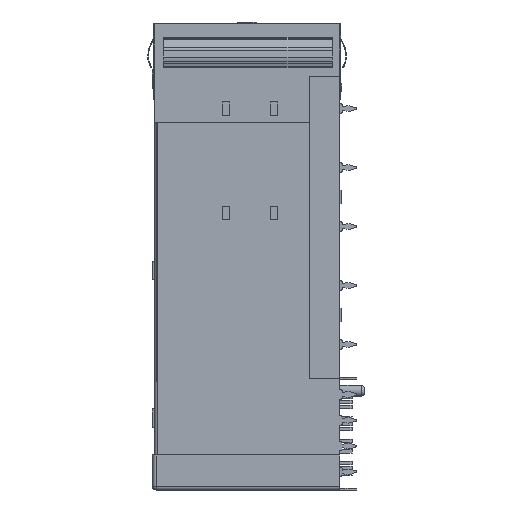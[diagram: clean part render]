
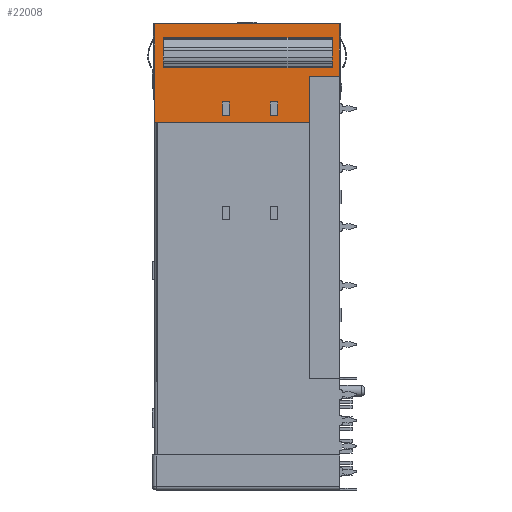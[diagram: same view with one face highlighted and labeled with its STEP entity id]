
A CAD part, left-side view. The second image highlights one B-rep face of the part: STEP entity #22008.
In plain terms, the highlighted planar face has unit normal (-1, 0, 0).
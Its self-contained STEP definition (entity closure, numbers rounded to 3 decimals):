
#380 = CARTESIAN_POINT ( 'NONE',  ( -28.75, 4.1, -7.1 ) ) ;
#1058 = DIRECTION ( 'NONE',  ( 0., 0., -1. ) ) ;
#1314 = DIRECTION ( 'NONE',  ( 0., 0., -1. ) ) ;
#2007 = LINE ( 'NONE', #12635, #96341 ) ;
#2818 = DIRECTION ( 'NONE',  ( 0., 1., 0. ) ) ;
#3015 = VERTEX_POINT ( 'NONE', #93277 ) ;
#3938 = VECTOR ( 'NONE', #96633, 1000. ) ;
#4210 = CARTESIAN_POINT ( 'NONE',  ( -28.75, 16., 0. ) ) ;
#4530 = EDGE_CURVE ( 'NONE', #10378, #90540, #42029, .T. ) ;
#5962 = EDGE_CURVE ( 'NONE', #12750, #10614, #46538, .T. ) ;
#7691 = EDGE_CURVE ( 'NONE', #71644, #41734, #14750, .T. ) ;
#8558 = LINE ( 'NONE', #24542, #85428 ) ;
#8859 = CARTESIAN_POINT ( 'NONE',  ( -28.75, 0.1, -7.1 ) ) ;
#9296 = LINE ( 'NONE', #54310, #51187 ) ;
#10378 = VERTEX_POINT ( 'NONE', #70052 ) ;
#10614 = VERTEX_POINT ( 'NONE', #20878 ) ;
#11645 = CARTESIAN_POINT ( 'NONE',  ( -28.75, 0., -12.4 ) ) ;
#12013 = LINE ( 'NONE', #4210, #69138 ) ;
#12635 = CARTESIAN_POINT ( 'NONE',  ( -28.75, 25.3, 0. ) ) ;
#12750 = VERTEX_POINT ( 'NONE', #85187 ) ;
#12794 = CARTESIAN_POINT ( 'NONE',  ( -28.75, 15., 0. ) ) ;
#13975 = ORIENTED_EDGE ( 'NONE', *, *, #52996, .T. ) ;
#14750 = LINE ( 'NONE', #90241, #69513 ) ;
#14776 = ORIENTED_EDGE ( 'NONE', *, *, #40934, .T. ) ;
#14791 = ORIENTED_EDGE ( 'NONE', *, *, #41325, .F. ) ;
#15036 = DIRECTION ( 'NONE',  ( 0., 0., 1. ) ) ;
#15763 = VECTOR ( 'NONE', #15036, 1000. ) ;
#15926 = VECTOR ( 'NONE', #46916, 1000. ) ;
#16092 = VECTOR ( 'NONE', #27789, 1000. ) ;
#16439 = CARTESIAN_POINT ( 'NONE',  ( -28.75, 0., -10.6 ) ) ;
#16486 = EDGE_CURVE ( 'NONE', #64602, #35556, #37702, .T. ) ;
#16840 = LINE ( 'NONE', #17926, #56333 ) ;
#17469 = VERTEX_POINT ( 'NONE', #31609 ) ;
#17926 = CARTESIAN_POINT ( 'NONE',  ( -28.75, 25.2, -13.4 ) ) ;
#19835 = ORIENTED_EDGE ( 'NONE', *, *, #88949, .T. ) ;
#20878 = CARTESIAN_POINT ( 'NONE',  ( -28.75, 16., -12.4 ) ) ;
#22008 = ADVANCED_FACE ( 'NONE', ( #65273, #47696, #85017, #30320 ), #74854, .F. ) ;
#22080 = CARTESIAN_POINT ( 'NONE',  ( -28.75, 1.05, -1.9 ) ) ;
#23738 = LINE ( 'NONE', #22080, #3938 ) ;
#24542 = CARTESIAN_POINT ( 'NONE',  ( -28.75, 0., -7.1 ) ) ;
#25400 = EDGE_CURVE ( 'NONE', #3015, #35665, #94828, .T. ) ;
#26647 = DIRECTION ( 'NONE',  ( 0., 0., 1. ) ) ;
#27145 = ORIENTED_EDGE ( 'NONE', *, *, #92816, .T. ) ;
#27377 = VERTEX_POINT ( 'NONE', #380 ) ;
#27668 = VECTOR ( 'NONE', #96251, 1000. ) ;
#27789 = DIRECTION ( 'NONE',  ( 0., 0., -1. ) ) ;
#29882 = EDGE_CURVE ( 'NONE', #90418, #59687, #42512, .T. ) ;
#30239 = DIRECTION ( 'NONE',  ( 0., 0., -1. ) ) ;
#30320 = FACE_OUTER_BOUND ( 'NONE', #66842, .T. ) ;
#31609 = CARTESIAN_POINT ( 'NONE',  ( -28.75, 15., -10.6 ) ) ;
#31961 = CARTESIAN_POINT ( 'NONE',  ( -28.75, 23.95, -2.181 ) ) ;
#33181 = VERTEX_POINT ( 'NONE', #54012 ) ;
#34072 = CARTESIAN_POINT ( 'NONE',  ( -28.75, 0.1, 0. ) ) ;
#35556 = VERTEX_POINT ( 'NONE', #75651 ) ;
#35665 = VERTEX_POINT ( 'NONE', #31961 ) ;
#35828 = LINE ( 'NONE', #12794, #16092 ) ;
#37702 = LINE ( 'NONE', #34072, #75024 ) ;
#38042 = LINE ( 'NONE', #69456, #15926 ) ;
#38473 = LINE ( 'NONE', #16439, #78069 ) ;
#39787 = ORIENTED_EDGE ( 'NONE', *, *, #73087, .T. ) ;
#40934 = EDGE_CURVE ( 'NONE', #68807, #75111, #16840, .T. ) ;
#41325 = EDGE_CURVE ( 'NONE', #71644, #3015, #23738, .T. ) ;
#41454 = VECTOR ( 'NONE', #66840, 1000. ) ;
#41734 = VERTEX_POINT ( 'NONE', #57051 ) ;
#42029 = LINE ( 'NONE', #51210, #81667 ) ;
#42512 = LINE ( 'NONE', #44642, #15763 ) ;
#44642 = CARTESIAN_POINT ( 'NONE',  ( -28.75, 9.45, 0. ) ) ;
#44863 = DIRECTION ( 'NONE',  ( 1., 0., 0. ) ) ;
#46538 = LINE ( 'NONE', #11645, #64071 ) ;
#46916 = DIRECTION ( 'NONE',  ( 0., 0., -1. ) ) ;
#47039 = CARTESIAN_POINT ( 'NONE',  ( -28.75, 1.05, -2.181 ) ) ;
#47696 = FACE_BOUND ( 'NONE', #58896, .T. ) ;
#49000 = DIRECTION ( 'NONE',  ( 0., 1., 0. ) ) ;
#49831 = EDGE_CURVE ( 'NONE', #90540, #90418, #9296, .T. ) ;
#51067 = ORIENTED_EDGE ( 'NONE', *, *, #55216, .T. ) ;
#51187 = VECTOR ( 'NONE', #76819, 1000. ) ;
#51210 = CARTESIAN_POINT ( 'NONE',  ( -28.75, 8.45, 0. ) ) ;
#51582 = CARTESIAN_POINT ( 'NONE',  ( -28.75, 1.05, -1.9 ) ) ;
#51768 = CARTESIAN_POINT ( 'NONE',  ( -28.75, 0., -10.6 ) ) ;
#52996 = EDGE_CURVE ( 'NONE', #73011, #17469, #38473, .T. ) ;
#53881 = CARTESIAN_POINT ( 'NONE',  ( -28.75, 16., -10.6 ) ) ;
#54012 = CARTESIAN_POINT ( 'NONE',  ( -28.75, 25.1, 0. ) ) ;
#54310 = CARTESIAN_POINT ( 'NONE',  ( -28.75, 0., -12.4 ) ) ;
#54582 = EDGE_CURVE ( 'NONE', #75111, #27377, #71979, .T. ) ;
#55216 = EDGE_CURVE ( 'NONE', #59687, #10378, #81083, .T. ) ;
#56333 = VECTOR ( 'NONE', #70003, 1000. ) ;
#56561 = ORIENTED_EDGE ( 'NONE', *, *, #4530, .T. ) ;
#57051 = CARTESIAN_POINT ( 'NONE',  ( -28.75, 1.05, -2.181 ) ) ;
#58712 = DIRECTION ( 'NONE',  ( 0., 0., -1. ) ) ;
#58896 = EDGE_LOOP ( 'NONE', ( #19835, #13975, #85105, #79462 ) ) ;
#59280 = ORIENTED_EDGE ( 'NONE', *, *, #93775, .T. ) ;
#59687 = VERTEX_POINT ( 'NONE', #70034 ) ;
#60888 = ORIENTED_EDGE ( 'NONE', *, *, #7691, .T. ) ;
#61138 = CARTESIAN_POINT ( 'NONE',  ( -28.75, 8.45, -12.4 ) ) ;
#62965 = ORIENTED_EDGE ( 'NONE', *, *, #25400, .F. ) ;
#64007 = AXIS2_PLACEMENT_3D ( 'NONE', #67383, #44863, #30239 ) ;
#64071 = VECTOR ( 'NONE', #49000, 1000. ) ;
#64602 = VERTEX_POINT ( 'NONE', #8859 ) ;
#65273 = FACE_BOUND ( 'NONE', #71083, .T. ) ;
#66840 = DIRECTION ( 'NONE',  ( 0., -1., 0. ) ) ;
#66842 = EDGE_LOOP ( 'NONE', ( #90323, #93031, #83568, #27145, #59280, #14776 ) ) ;
#67383 = CARTESIAN_POINT ( 'NONE',  ( -28.75, 0., 0. ) ) ;
#68053 = CARTESIAN_POINT ( 'NONE',  ( -28.75, 23.95, -1.9 ) ) ;
#68319 = LINE ( 'NONE', #47039, #88087 ) ;
#68807 = VERTEX_POINT ( 'NONE', #86778 ) ;
#69135 = EDGE_CURVE ( 'NONE', #27377, #64602, #8558, .T. ) ;
#69138 = VECTOR ( 'NONE', #26647, 1000. ) ;
#69456 = CARTESIAN_POINT ( 'NONE',  ( -28.75, 25.1, 0. ) ) ;
#69513 = VECTOR ( 'NONE', #1058, 1000. ) ;
#70003 = DIRECTION ( 'NONE',  ( 0., -1., 0. ) ) ;
#70034 = CARTESIAN_POINT ( 'NONE',  ( -28.75, 9.45, -10.6 ) ) ;
#70052 = CARTESIAN_POINT ( 'NONE',  ( -28.75, 8.45, -10.6 ) ) ;
#71083 = EDGE_LOOP ( 'NONE', ( #79305, #51067, #56561, #86481 ) ) ;
#71644 = VERTEX_POINT ( 'NONE', #51582 ) ;
#71979 = LINE ( 'NONE', #88422, #27668 ) ;
#72179 = EDGE_CURVE ( 'NONE', #17469, #12750, #35828, .T. ) ;
#73011 = VERTEX_POINT ( 'NONE', #53881 ) ;
#73087 = EDGE_CURVE ( 'NONE', #41734, #35665, #68319, .T. ) ;
#74854 = PLANE ( 'NONE',  #64007 ) ;
#75010 = VECTOR ( 'NONE', #1314, 1000. ) ;
#75024 = VECTOR ( 'NONE', #78692, 1000. ) ;
#75111 = VERTEX_POINT ( 'NONE', #80203 ) ;
#75651 = CARTESIAN_POINT ( 'NONE',  ( -28.75, 0.1, 0. ) ) ;
#75683 = DIRECTION ( 'NONE',  ( 0., -1., 0. ) ) ;
#76819 = DIRECTION ( 'NONE',  ( 0., 1., 0. ) ) ;
#78069 = VECTOR ( 'NONE', #75683, 1000. ) ;
#78692 = DIRECTION ( 'NONE',  ( 0., 0., 1. ) ) ;
#79305 = ORIENTED_EDGE ( 'NONE', *, *, #29882, .T. ) ;
#79356 = DIRECTION ( 'NONE',  ( 0., 1., 0. ) ) ;
#79462 = ORIENTED_EDGE ( 'NONE', *, *, #5962, .T. ) ;
#80203 = CARTESIAN_POINT ( 'NONE',  ( -28.75, 4.1, -13.4 ) ) ;
#81083 = LINE ( 'NONE', #51768, #41454 ) ;
#81667 = VECTOR ( 'NONE', #58712, 1000. ) ;
#83568 = ORIENTED_EDGE ( 'NONE', *, *, #16486, .T. ) ;
#85017 = FACE_BOUND ( 'NONE', #94170, .T. ) ;
#85105 = ORIENTED_EDGE ( 'NONE', *, *, #72179, .T. ) ;
#85187 = CARTESIAN_POINT ( 'NONE',  ( -28.75, 15., -12.4 ) ) ;
#85428 = VECTOR ( 'NONE', #91634, 1000. ) ;
#86481 = ORIENTED_EDGE ( 'NONE', *, *, #49831, .T. ) ;
#86778 = CARTESIAN_POINT ( 'NONE',  ( -28.75, 25.1, -13.4 ) ) ;
#88087 = VECTOR ( 'NONE', #2818, 1000. ) ;
#88422 = CARTESIAN_POINT ( 'NONE',  ( -28.75, 4.1, 0. ) ) ;
#88949 = EDGE_CURVE ( 'NONE', #10614, #73011, #12013, .T. ) ;
#89540 = CARTESIAN_POINT ( 'NONE',  ( -28.75, 9.45, -12.4 ) ) ;
#90241 = CARTESIAN_POINT ( 'NONE',  ( -28.75, 1.05, -1.9 ) ) ;
#90323 = ORIENTED_EDGE ( 'NONE', *, *, #54582, .T. ) ;
#90418 = VERTEX_POINT ( 'NONE', #89540 ) ;
#90540 = VERTEX_POINT ( 'NONE', #61138 ) ;
#91634 = DIRECTION ( 'NONE',  ( 0., -1., 0. ) ) ;
#92816 = EDGE_CURVE ( 'NONE', #35556, #33181, #2007, .T. ) ;
#93031 = ORIENTED_EDGE ( 'NONE', *, *, #69135, .T. ) ;
#93277 = CARTESIAN_POINT ( 'NONE',  ( -28.75, 23.95, -1.9 ) ) ;
#93775 = EDGE_CURVE ( 'NONE', #33181, #68807, #38042, .T. ) ;
#94170 = EDGE_LOOP ( 'NONE', ( #14791, #60888, #39787, #62965 ) ) ;
#94828 = LINE ( 'NONE', #68053, #75010 ) ;
#96251 = DIRECTION ( 'NONE',  ( 0., 0., 1. ) ) ;
#96341 = VECTOR ( 'NONE', #79356, 1000. ) ;
#96633 = DIRECTION ( 'NONE',  ( 0., 1., 0. ) ) ;
